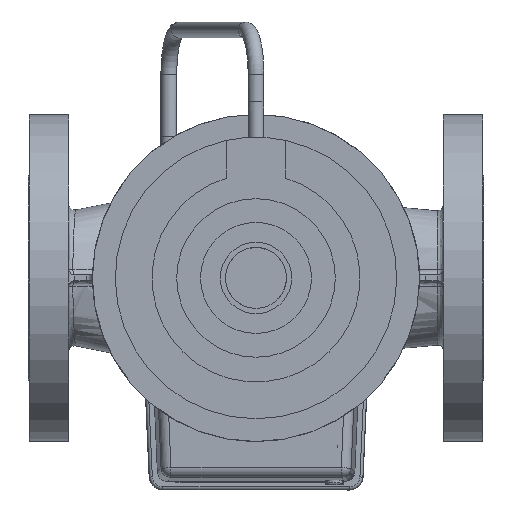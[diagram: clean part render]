
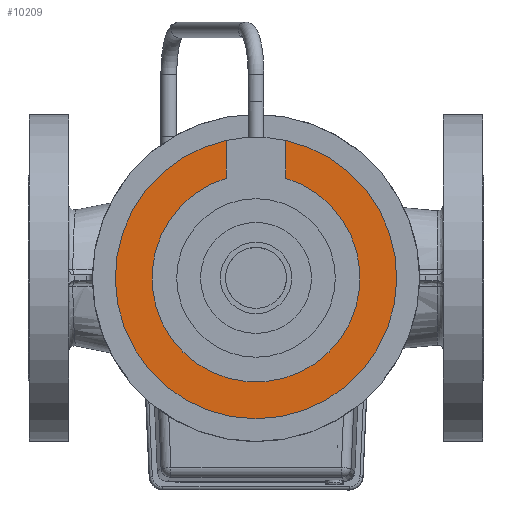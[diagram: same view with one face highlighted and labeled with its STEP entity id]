
A CAD part, front view. The second image highlights one B-rep face of the part: STEP entity #10209.
In plain terms, the highlighted planar face has unit normal (0, -1, 0).
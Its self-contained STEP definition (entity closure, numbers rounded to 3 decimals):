
#710=LINE('',#15427,#1150);
#711=LINE('',#15429,#1151);
#1150=VECTOR('',#12834,1000.);
#1151=VECTOR('',#12835,1000.);
#1368=PLANE('',#10981);
#2892=ORIENTED_EDGE('',*,*,#4155,.T.);
#2893=ORIENTED_EDGE('',*,*,#4146,.T.);
#2894=ORIENTED_EDGE('',*,*,#4156,.T.);
#2895=ORIENTED_EDGE('',*,*,#4157,.F.);
#4146=EDGE_CURVE('',#4885,#4888,#5327,.T.);
#4155=EDGE_CURVE('',#4893,#4885,#710,.T.);
#4156=EDGE_CURVE('',#4888,#4894,#711,.T.);
#4157=EDGE_CURVE('',#4893,#4894,#5330,.T.);
#4885=VERTEX_POINT('',#15403);
#4888=VERTEX_POINT('',#15408);
#4893=VERTEX_POINT('',#15428);
#4894=VERTEX_POINT('',#15430);
#5327=CIRCLE('',#10974,52.5);
#5330=CIRCLE('',#10982,71.);
#5820=EDGE_LOOP('',(#2892,#2893,#2894,#2895));
#6406=FACE_BOUND('',#5820,.T.);
#10209=ADVANCED_FACE('',(#6406),#1368,.F.);
#10974=AXIS2_PLACEMENT_3D('',#15409,#12812,#12813);
#10981=AXIS2_PLACEMENT_3D('',#15426,#12832,#12833);
#10982=AXIS2_PLACEMENT_3D('',#15431,#12836,#12837);
#12812=DIRECTION('',(0.,1.,0.));
#12813=DIRECTION('',(0.,0.,1.));
#12832=DIRECTION('',(0.,1.,0.));
#12833=DIRECTION('',(0.,0.,-1.));
#12834=DIRECTION('',(0.,0.,-1.));
#12835=DIRECTION('',(0.,0.,1.));
#12836=DIRECTION('',(0.,1.,0.));
#12837=DIRECTION('',(0.,0.,1.));
#15403=CARTESIAN_POINT('',(105.,-16.9,-39.203));
#15408=CARTESIAN_POINT('',(75.,-16.9,-39.203));
#15409=CARTESIAN_POINT('',(90.,-16.9,-89.515));
#15426=CARTESIAN_POINT('',(90.,-16.9,-89.515));
#15427=CARTESIAN_POINT('',(105.,-16.9,-89.515));
#15428=CARTESIAN_POINT('',(105.,-16.9,-20.117));
#15429=CARTESIAN_POINT('',(75.,-16.9,-89.515));
#15430=CARTESIAN_POINT('',(75.,-16.9,-20.117));
#15431=CARTESIAN_POINT('',(90.,-16.9,-89.515));
